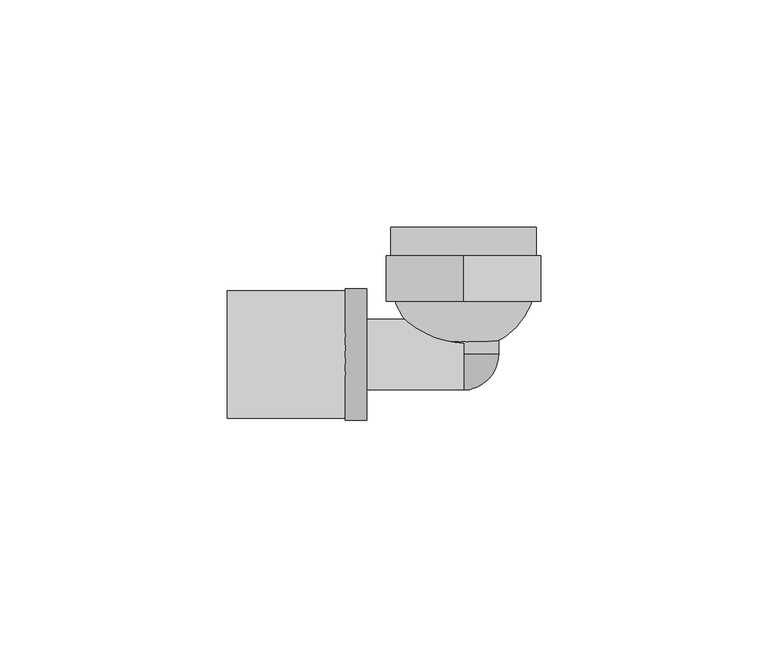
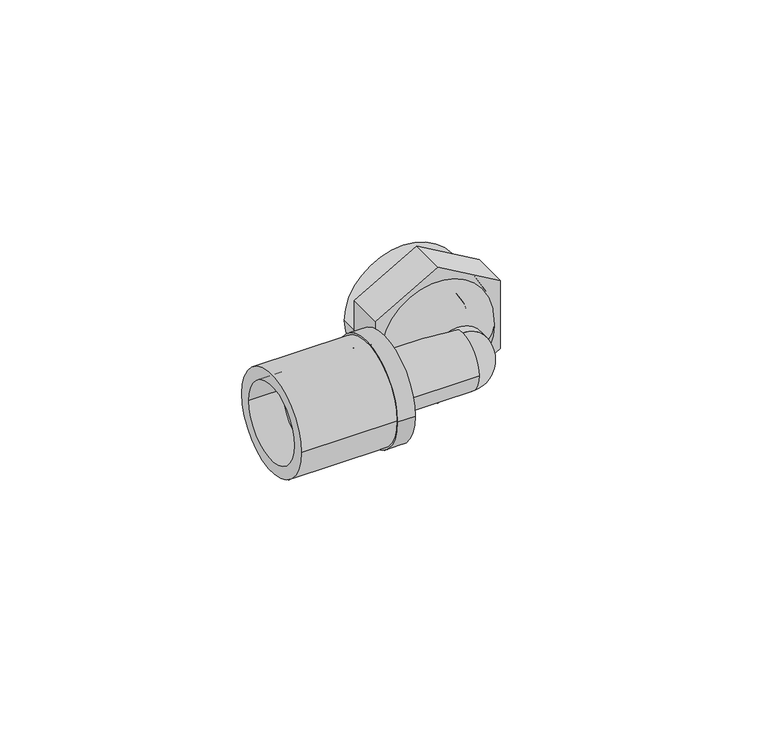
"""IFC4 building model written with IfcOpenShell, lengths in millimetres: pipe fitting geometry, FASTLOC_Elbow with female thread LX : FSL A internal HU."""

from ifc_helpers import new_model, si_unit, point, frame, origin, origin_2d, place, context, project, spatial, polyline, circle_curve, ellipse_curve, trimmed, segment, composite_curve, outline, extrude, source, transform, mapped, element, save
from ifc_brep_helpers import plane_surface, cylinder_surface, revolved_surface, advanced_brep


def pipe_fitting_108ee799(model_context):
    return source(origin(), model_context, "Body", "SolidModel", [
        extrude(outline(composite_curve([segment(trimmed(circle_curve(origin_2d(), 14.0), [point((14.0, 0.0))], [point((-14.0, 0.0))], False, "CARTESIAN"), True, "CONTINUOUS"), segment(trimmed(circle_curve(origin_2d(), 14.0), [point((-14.0, 0.0))], [point((14.0, 0.0))], False, "CARTESIAN"), True, "CONTINUOUS")], self_intersect=False), holes=[composite_curve([segment(trimmed(circle_curve(origin_2d(), 10.7), [point((10.7, 0.0))], [point((-10.7, 0.0))], True, "CARTESIAN"), True, "CONTINUOUS"), segment(trimmed(circle_curve(origin_2d(), 10.7), [point((-10.7, 0.0))], [point((10.7, 0.0))], True, "CARTESIAN"), True, "CONTINUOUS")], self_intersect=False)]), frame((-52.0, 0.0, 0.0), z_axis=(1.0, 0.0, 0.0), x_axis=(0.0, 1.0, 0.0)), (0.0, 0.0, 1.0), 26.0),
        advanced_brep(
        [(-26.0, -14.5, 0.0), (-26.0, 14.5, 0.0), (-21.3, 14.5, 0.0), (-21.3, -14.5, 0.0), (-43.0, -11.85, 0.0), (-43.0, 11.85, 0.0), (-26.0, 11.85, 0.0), (-26.0, -11.85, 0.0), (-21.3, -10.15, 0.0), (-21.3, 10.15, 0.0), (-43.0, 10.15, 0.0), (-43.0, -10.15, 0.0)],
        [
            (0, 1, circle_curve(frame((-26.0, 0.0, 0.0), z_axis=(1.0, 0.0, 0.0), x_axis=(0.0, 1.0, 0.0)), 14.5)),
            (1, 2),
            (2, 3, circle_curve(frame((-21.3, 0.0, 0.0), z_axis=(-1.0, 0.0, 0.0), x_axis=(0.0, 1.0, 0.0)), 14.5)),
            (3, 0),
            (4, 5, circle_curve(frame((-43.0, 0.0, 0.0), z_axis=(1.0, 0.0, 0.0), x_axis=(0.0, 1.0, 0.0)), 11.85)),
            (5, 6),
            (6, 7, circle_curve(frame((-26.0, 0.0, 0.0), z_axis=(-1.0, 0.0, 0.0), x_axis=(0.0, 1.0, 0.0)), 11.85)),
            (7, 4),
            (8, 9, circle_curve(frame((-21.3, 0.0, 0.0), z_axis=(1.0, 0.0, 0.0), x_axis=(0.0, 1.0, 0.0)), 10.15)),
            (9, 10),
            (10, 11, circle_curve(frame((-43.0, 0.0, 0.0), z_axis=(-1.0, 0.0, 0.0), x_axis=(0.0, 1.0, 0.0)), 10.15)),
            (11, 8),
            (1, 0, circle_curve(frame((-26.0, 0.0, 0.0), z_axis=(1.0, 0.0, 0.0), x_axis=(0.0, -1.0, 0.0)), 14.5)),
            (3, 2, circle_curve(frame((-21.3, 0.0, 0.0), z_axis=(-1.0, 0.0, 0.0), x_axis=(0.0, -1.0, 0.0)), 14.5)),
            (6, 7, circle_curve(frame((-26.0, 0.0, 0.0), z_axis=(1.0, 0.0, 0.0), x_axis=(0.0, -1.0, 0.0)), 11.85)),
            (5, 4, circle_curve(frame((-43.0, 0.0, 0.0), z_axis=(1.0, 0.0, 0.0), x_axis=(0.0, -1.0, 0.0)), 11.85)),
            (10, 11, circle_curve(frame((-43.0, 0.0, 0.0), z_axis=(1.0, 0.0, 0.0), x_axis=(0.0, -1.0, 0.0)), 10.15)),
            (9, 8, circle_curve(frame((-21.3, 0.0, 0.0), z_axis=(1.0, 0.0, 0.0), x_axis=(0.0, -1.0, 0.0)), 10.15)),
        ],
        [
            cylinder_surface(frame((-21.3, 0.0, 0.0), z_axis=(-1.0, 0.0, 0.0), x_axis=(0.0, 1.0, 0.0)), 14.5),
            cylinder_surface(frame((-21.3, 0.0, 0.0), z_axis=(-1.0, 0.0, 0.0), x_axis=(0.0, 1.0, 0.0)), 11.85),
            revolved_surface(polyline([(-43.0, 10.15, 0.0), (-21.3, 10.15, 0.0)]), (-21.3, 0.0, 0.0), (-1.0, 0.0, 0.0)),
            cylinder_surface(frame((-21.3, 0.0, 0.0), z_axis=(-1.0, 0.0, 0.0), x_axis=(0.0, -1.0, 0.0)), 14.5),
            plane_surface(frame((-26.0, 0.0, 0.0), z_axis=(-1.0, 0.0, 0.0), x_axis=(0.0, -1.0, 0.0))),
            cylinder_surface(frame((-21.3, 0.0, 0.0), z_axis=(-1.0, 0.0, 0.0), x_axis=(0.0, -1.0, 0.0)), 11.85),
            plane_surface(frame((-43.0, 0.0, 0.0), z_axis=(-1.0, 0.0, 0.0), x_axis=(0.0, -1.0, 0.0))),
            revolved_surface(polyline([(-43.0, -10.15, 0.0), (-21.3, -10.15, 0.0)]), (-21.3, 0.0, 0.0), (-1.0, 0.0, 0.0)),
            plane_surface(frame((-21.3, 0.0, 0.0), z_axis=(1.0, 0.0, 0.0), x_axis=(0.0, -1.0, 0.0))),
        ],
        [
            (0, [[1, 2, 3, 4]]),
            (1, [[5, 6, 7, 8]]),
            (2, [[9, 10, 11, 12]]),
            (3, [[13, -4, 14, -2]]),
            (4, [[-13, -1], [15, -7]]),
            (5, [[16, -8, -15, -6]]),
            (6, [[-16, -5], [17, -11]]),
            (7, [[18, -12, -17, -10]]),
            (8, [[-14, -3], [-18, -9]]),
        ],
    ),
        advanced_brep(
        [(0.5, 1.0078144, 0.0), (-0.5, 1.0078144, 0.0), (-16.0, 17.0, 0.0), (16.0, 17.0, 0.0), (0.5, 7.0125078, 0.0), (-0.5, 7.0125078, 0.0), (10.0, 17.0, 0.0), (-10.0, 17.0, 0.0), (10.0, 28.0, 0.0), (-10.0, 28.0, 0.0), (-16.0, 28.0, 0.0), (16.0, 28.0, 0.0)],
        [
            (0, 1, circle_curve(frame((0.0, 1.0078144, 0.0), z_axis=(0.0, 1.0, 0.0), x_axis=(-1.0, 0.0, 0.0)), 0.5)),
            (1, 2, circle_curve(frame((0.0, 17.0, 0.0), z_axis=(0.0, 0.0, -1.0), x_axis=(0.0, 1.0, 0.0)), 16.0)),
            (2, 3, circle_curve(frame((0.0, 17.0, 0.0), z_axis=(0.0, -1.0, 0.0), x_axis=(-1.0, 0.0, 0.0)), 16.0)),
            (3, 0, circle_curve(frame((0.0, 17.0, 0.0), z_axis=(0.0, 0.0, -1.0), x_axis=(0.0, 1.0, 0.0)), 16.0)),
            (4, 5, circle_curve(frame((0.0, 7.0125078, 0.0), z_axis=(0.0, 1.0, 0.0), x_axis=(-1.0, 0.0, 0.0)), 0.5)),
            (5, 1),
            (0, 4),
            (6, 7, circle_curve(frame((0.0, 17.0, 0.0), z_axis=(0.0, 1.0, 0.0), x_axis=(-1.0, 0.0, 0.0)), 10.0)),
            (7, 5, circle_curve(frame((0.0, 17.0, 0.0), z_axis=(0.0, 0.0, 1.0), x_axis=(0.0, 1.0, 0.0)), 10.0)),
            (4, 6, circle_curve(frame((0.0, 17.0, 0.0), z_axis=(0.0, 0.0, 1.0), x_axis=(0.0, 1.0, 0.0)), 10.0)),
            (8, 9, circle_curve(frame((0.0, 28.0, 0.0), z_axis=(0.0, 1.0, 0.0), x_axis=(-1.0, 0.0, 0.0)), 10.0)),
            (9, 7),
            (6, 8),
            (2, 10),
            (10, 11, circle_curve(frame((0.0, 28.0, 0.0), z_axis=(0.0, -1.0, 0.0), x_axis=(-1.0, 0.0, 0.0)), 16.0)),
            (11, 3),
            (1, 0, circle_curve(frame((0.0, 1.0078144, 0.0), z_axis=(0.0, 1.0, 0.0), x_axis=(1.0, 0.0, 0.0)), 0.5)),
            (3, 2, circle_curve(frame((0.0, 17.0, 0.0), z_axis=(0.0, -1.0, 0.0), x_axis=(1.0, 0.0, 0.0)), 16.0)),
            (5, 4, circle_curve(frame((0.0, 7.0125078, 0.0), z_axis=(0.0, 1.0, 0.0), x_axis=(1.0, 0.0, 0.0)), 0.5)),
            (7, 6, circle_curve(frame((0.0, 17.0, 0.0), z_axis=(0.0, 1.0, 0.0), x_axis=(1.0, 0.0, 0.0)), 10.0)),
            (9, 8, circle_curve(frame((0.0, 28.0, 0.0), z_axis=(0.0, 1.0, 0.0), x_axis=(1.0, 0.0, 0.0)), 10.0)),
            (10, 11, circle_curve(frame((0.0, 28.0, 0.0), z_axis=(0.0, 1.0, 0.0), x_axis=(1.0, 0.0, 0.0)), 16.0)),
        ],
        [
            revolved_surface(trimmed(ellipse_curve(frame((0.0, 17.0, 0.0), z_axis=(0.0, 0.0, 1.0), x_axis=(0.0, 1.0, 0.0)), 16.0, 16.0), [point((-16.0, 17.0, 0.0))], [point((-0.5, 1.0078144, 0.0))], True, "CARTESIAN"), (0.0, 11.7, 0.0), (0.0, -1.0, 0.0)),
            revolved_surface(polyline([(-0.5, 1.0078144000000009, 0.0), (-0.5, 7.0125078, 0.0)]), (0.0, 11.7, 0.0), (0.0, -1.0, 0.0)),
            revolved_surface(trimmed(ellipse_curve(frame((0.0, 17.0, 0.0), z_axis=(0.0, 0.0, -1.0), x_axis=(0.0, 1.0, 0.0)), 10.0, 10.0), [point((-0.5, 7.0125078, 0.0))], [point((-10.0, 17.0, 0.0))], True, "CARTESIAN"), (0.0, 11.7, 0.0), (0.0, -1.0, 0.0)),
            revolved_surface(polyline([(-10.0, 17.0, 0.0), (-10.0, 28.0, 0.0)]), (0.0, 11.7, 0.0), (0.0, -1.0, 0.0)),
            cylinder_surface(frame((0.0, 11.7, 0.0), z_axis=(0.0, -1.0, 0.0), x_axis=(-1.0, 0.0, 0.0)), 16.0),
            revolved_surface(trimmed(ellipse_curve(frame((0.0, 17.0, 0.0), z_axis=(0.0, 0.0, -1.0), x_axis=(0.0, 1.0, 0.0)), 16.0, 16.0), [point((16.0, 17.0, 0.0))], [point((0.5, 1.0078144, 0.0))], True, "CARTESIAN"), (0.0, 11.7, 0.0), (0.0, -1.0, 0.0)),
            revolved_surface(polyline([(0.5, 1.0078144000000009, 0.0), (0.5, 7.0125078, 0.0)]), (0.0, 11.7, 0.0), (0.0, -1.0, 0.0)),
            revolved_surface(trimmed(ellipse_curve(frame((0.0, 17.0, 0.0), z_axis=(0.0, 0.0, 1.0), x_axis=(0.0, 1.0, 0.0)), 10.0, 10.0), [point((0.5, 7.0125078, 0.0))], [point((10.0, 17.0, 0.0))], True, "CARTESIAN"), (0.0, 11.7, 0.0), (0.0, -1.0, 0.0)),
            revolved_surface(polyline([(10.0, 17.0, 0.0), (10.0, 28.0, 0.0)]), (0.0, 11.7, 0.0), (0.0, -1.0, 0.0)),
            plane_surface(frame((0.0, 28.0, 0.0), z_axis=(0.0, 1.0, 0.0), x_axis=(1.0, 0.0, 0.0))),
            cylinder_surface(frame((0.0, 11.7, 0.0), z_axis=(0.0, -1.0, 0.0), x_axis=(1.0, 0.0, 0.0)), 16.0),
        ],
        [
            (0, [[1, 2, 3, 4]]),
            (1, [[5, 6, -1, 7]]),
            (2, [[8, 9, -5, 10]]),
            (3, [[11, 12, -8, 13]]),
            (4, [[-3, 14, 15, 16]]),
            (5, [[17, -4, 18, -2]]),
            (6, [[19, -7, -17, -6]]),
            (7, [[20, -10, -19, -9]]),
            (8, [[21, -13, -20, -12]]),
            (9, [[22, -15], [-21, -11]]),
            (10, [[-18, -16, -22, -14]]),
        ],
    ),
        advanced_brep(
        [(-26.0, 7.75, 0.0), (-26.0, -7.75, 0.0), (-43.4, -7.75, 0.0), (-43.4, 7.75, 0.0), (-23.3, 8.8, 0.0), (-23.3, -8.8, 0.0), (-26.0, -8.8, 0.0), (-26.0, 8.8, 0.0), (0.0, 7.75, 0.0), (0.0, -7.75, 0.0), (-23.3, -7.75, 0.0), (-23.3, 7.75, 0.0), (-43.4, 5.75, 0.0), (-43.4, -5.75, 0.0), (0.0, -5.75, 0.0), (0.0, 5.75, 0.0)],
        [
            (0, 1, circle_curve(frame((-26.0, 0.0, 0.0), z_axis=(-1.0, 0.0, 0.0), x_axis=(0.0, -1.0, 0.0)), 7.75)),
            (1, 2),
            (2, 3, circle_curve(frame((-43.4, 0.0, 0.0), z_axis=(1.0, 0.0, 0.0), x_axis=(0.0, -1.0, 0.0)), 7.75)),
            (3, 0),
            (4, 5, circle_curve(frame((-23.3, 0.0, 0.0), z_axis=(-1.0, 0.0, 0.0), x_axis=(0.0, -1.0, 0.0)), 8.8)),
            (5, 6),
            (6, 7, circle_curve(frame((-26.0, 0.0, 0.0), z_axis=(1.0, 0.0, 0.0), x_axis=(0.0, -1.0, 0.0)), 8.8)),
            (7, 4),
            (8, 9, circle_curve(frame((0.0, 0.0, 0.0), z_axis=(-1.0, 0.0, 0.0), x_axis=(0.0, -1.0, 0.0)), 7.75)),
            (9, 10),
            (10, 11, circle_curve(frame((-23.3, 0.0, 0.0), z_axis=(1.0, 0.0, 0.0), x_axis=(0.0, -1.0, 0.0)), 7.75)),
            (11, 8),
            (12, 13, circle_curve(frame((-43.4, 0.0, 0.0), z_axis=(-1.0, 0.0, 0.0), x_axis=(0.0, -1.0, 0.0)), 5.75)),
            (13, 14),
            (14, 15, circle_curve(frame((0.0, 0.0, 0.0), z_axis=(1.0, 0.0, 0.0), x_axis=(0.0, -1.0, 0.0)), 5.75)),
            (15, 12),
            (2, 3, circle_curve(frame((-43.4, 0.0, 0.0), z_axis=(-1.0, 0.0, 0.0), x_axis=(0.0, 1.0, 0.0)), 7.75)),
            (12, 13, circle_curve(frame((-43.4, 0.0, 0.0), z_axis=(1.0, 0.0, 0.0), x_axis=(0.0, 1.0, 0.0)), 5.75)),
            (1, 0, circle_curve(frame((-26.0, 0.0, 0.0), z_axis=(-1.0, 0.0, 0.0), x_axis=(0.0, 1.0, 0.0)), 7.75)),
            (6, 7, circle_curve(frame((-26.0, 0.0, 0.0), z_axis=(-1.0, 0.0, 0.0), x_axis=(0.0, 1.0, 0.0)), 8.8)),
            (5, 4, circle_curve(frame((-23.3, 0.0, 0.0), z_axis=(-1.0, 0.0, 0.0), x_axis=(0.0, 1.0, 0.0)), 8.8)),
            (10, 11, circle_curve(frame((-23.3, 0.0, 0.0), z_axis=(-1.0, 0.0, 0.0), x_axis=(0.0, 1.0, 0.0)), 7.75)),
            (9, 8, circle_curve(frame((0.0, 0.0, 0.0), z_axis=(-1.0, 0.0, 0.0), x_axis=(0.0, 1.0, 0.0)), 7.75)),
            (14, 15, circle_curve(frame((0.0, 0.0, 0.0), z_axis=(-1.0, 0.0, 0.0), x_axis=(0.0, 1.0, 0.0)), 5.75)),
        ],
        [
            cylinder_surface(frame((0.0, 0.0, 0.0), z_axis=(1.0, 0.0, 0.0), x_axis=(0.0, -1.0, 0.0)), 7.75),
            cylinder_surface(frame((0.0, 0.0, 0.0), z_axis=(1.0, 0.0, 0.0), x_axis=(0.0, -1.0, 0.0)), 8.8),
            revolved_surface(polyline([(0.0, -5.75, 0.0), (-43.4, -5.75, 0.0)]), (0.0, 0.0, 0.0), (1.0, 0.0, 0.0)),
            plane_surface(frame((-43.4, 0.0, 0.0), z_axis=(-1.0, 0.0, 0.0), x_axis=(0.0, 1.0, 0.0))),
            cylinder_surface(frame((0.0, 0.0, 0.0), z_axis=(1.0, 0.0, 0.0), x_axis=(0.0, 1.0, 0.0)), 7.75),
            plane_surface(frame((-26.0, 0.0, 0.0), z_axis=(-1.0, 0.0, 0.0), x_axis=(0.0, 1.0, 0.0))),
            cylinder_surface(frame((0.0, 0.0, 0.0), z_axis=(1.0, 0.0, 0.0), x_axis=(0.0, 1.0, 0.0)), 8.8),
            plane_surface(frame((-23.3, 0.0, 0.0), z_axis=(1.0, 0.0, 0.0), x_axis=(0.0, 1.0, 0.0))),
            plane_surface(frame((0.0, 0.0, 0.0), z_axis=(1.0, 0.0, 0.0), x_axis=(0.0, 1.0, 0.0))),
            revolved_surface(polyline([(0.0, 5.75, 0.0), (-43.4, 5.75, 0.0)]), (0.0, 0.0, 0.0), (1.0, 0.0, 0.0)),
        ],
        [
            (0, [[1, 2, 3, 4]]),
            (1, [[5, 6, 7, 8]]),
            (0, [[9, 10, 11, 12]]),
            (2, [[13, 14, 15, 16]]),
            (3, [[17, -3], [18, -13]]),
            (4, [[19, -4, -17, -2]]),
            (5, [[20, -7], [-19, -1]]),
            (6, [[21, -8, -20, -6]]),
            (7, [[-21, -5], [22, -11]]),
            (4, [[23, -12, -22, -10]]),
            (8, [[-23, -9], [24, -15]]),
            (9, [[-18, -16, -24, -14]]),
        ],
    ),
        advanced_brep(
        [(0.0, 0.0, 7.75), (0.0, 0.0, 3.875), (0.0, -3.875, 0.0), (0.0, -7.75, 0.0), (0.0, 0.0, -7.75), (0.0, 0.0, -3.875)],
        [
            (0, 1),
            (1, 2, circle_curve(frame((0.0, 0.0, 0.0), z_axis=(1.0, 0.0, 0.0), x_axis=(0.0, 0.0, 1.0)), 3.875)),
            (2, 3),
            (3, 0, circle_curve(frame((0.0, 0.0, 0.0), z_axis=(-1.0, 0.0, 0.0), x_axis=(0.0, 0.0, 1.0)), 7.75)),
            (4, 3, circle_curve(frame((0.0, 0.0, 0.0), z_axis=(-1.0, 0.0, 0.0), x_axis=(0.0, 0.0, -1.0)), 7.75)),
            (2, 5, circle_curve(frame((0.0, 0.0, 0.0), z_axis=(1.0, 0.0, 0.0), x_axis=(0.0, 0.0, -1.0)), 3.875)),
            (5, 4),
            (5, 1, circle_curve(frame((0.0, 0.0, 0.0), z_axis=(0.0, -1.0, 0.0), x_axis=(0.0, 0.0, 1.0)), 3.875)),
            (0, 4, circle_curve(frame((0.0, 0.0, 0.0), z_axis=(0.0, 1.0, 0.0), x_axis=(0.0, 0.0, 1.0)), 7.75)),
        ],
        [
            plane_surface(frame((0.0, 0.0, 0.0), z_axis=(-1.0, 0.0, 0.0), x_axis=(0.0, 0.0, 1.0))),
            plane_surface(frame((0.0, 0.0, 0.0), z_axis=(-1.0, 0.0, 0.0), x_axis=(0.0, 0.0, -1.0))),
            plane_surface(frame((0.0, 0.0, 0.0), z_axis=(0.0, 1.0, 0.0), x_axis=(0.0, 0.0, 1.0))),
            revolved_surface(trimmed(ellipse_curve(frame((0.0, 0.0, 0.0), z_axis=(1.0, 0.0, 0.0), x_axis=(0.0, 0.0, 1.0)), 3.875, 3.875), [point((0.0, 0.0, 3.875))], [point((0.0, -3.875, 0.0))], True, "CARTESIAN"), (0.0, 0.0, 0.0), (0.0, 1.0, 0.0)),
            revolved_surface(trimmed(ellipse_curve(frame((0.0, 0.0, 0.0), z_axis=(-1.0, 0.0, 0.0), x_axis=(0.0, 0.0, 1.0)), 7.75, 7.75), [point((0.0, -7.75, 0.0))], [point((0.0, 0.0, 7.75))], True, "CARTESIAN"), (0.0, 0.0, 0.0), (0.0, 1.0, 0.0)),
        ],
        [
            (0, [[1, 2, 3, 4]]),
            (1, [[5, -3, 6, 7]]),
            (2, [[8, -1, 9, -7]]),
            (3, [[-2, -8, -6]]),
            (4, [[-9, -4, -5]]),
        ],
    ),
        extrude(outline(polyline([(-9.8149546, 17.0), (9.8149546, 17.0), (19.6299092, 0.0), (9.8149546, -17.0), (-9.8149546, -17.0), (-19.6299092, 0.0), (-9.8149546, 17.0)])), frame((0.0, 11.7, 0.0), z_axis=(0.0, 1.0, 0.0), x_axis=(0.0, 0.0, 1.0)), (0.0, 0.0, 1.0), 10.0),
        extrude(outline(composite_curve([segment(trimmed(circle_curve(origin_2d(), 7.75), [point((0.0, -7.75))], [point((0.0, 7.75))], False, "CARTESIAN"), True, "CONTINUOUS"), segment(trimmed(circle_curve(origin_2d(), 7.75), [point((0.0, 7.75))], [point((0.0, -7.75))], False, "CARTESIAN"), True, "CONTINUOUS")], self_intersect=False), holes=[composite_curve([segment(trimmed(circle_curve(origin_2d(), 5.75), [point((0.0, -5.75))], [point((0.0, 5.75))], True, "CARTESIAN"), True, "CONTINUOUS"), segment(trimmed(circle_curve(origin_2d(), 5.75), [point((0.0, 5.75))], [point((0.0, -5.75))], True, "CARTESIAN"), True, "CONTINUOUS")], self_intersect=False)]), frame((0.0, 0.0, 0.0), z_axis=(0.0, 1.0, 0.0), x_axis=(0.0, 0.0, 1.0)), (0.0, 0.0, 1.0), 11.7),
    ])


if __name__ == "__main__":
    model = new_model("IFC4")
    model_context = context("Model", 3, world=origin())
    ifc_project = project(units=[si_unit("LENGTHUNIT", "METRE", prefix="MILLI")], contexts=[model_context])
    site = spatial("IfcSite", under=ifc_project)
    building = spatial("IfcBuilding", under=site)
    placement = place(None, origin())
    pipe_fitting_shape = pipe_fitting_108ee799(model_context)
    element("IfcPipeFitting", 1, ObjectType="FASTLOC_Elbow with female thread LX : FSL A internal HU", at=placement, inside=building, context=model_context, shape_type="MappedRepresentation", body=[
        mapped(pipe_fitting_shape, transform((0.0, 0.0, 0.0), x_axis=(1.0, 0.0, 0.0), y_axis=(0.0, 1.0, 0.0), z_axis=(0.0, 0.0, 1.0))),
    ])
    save(model, "model.ifc")
